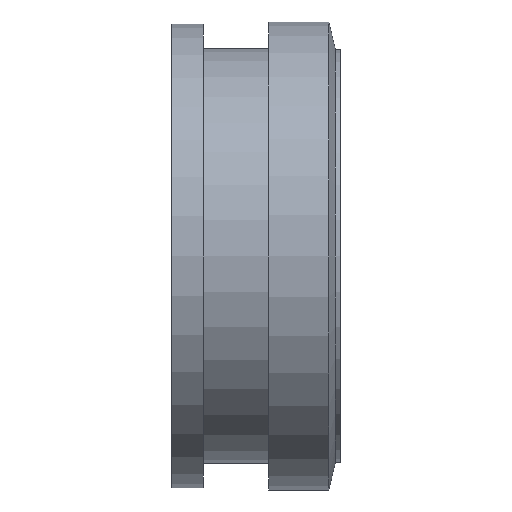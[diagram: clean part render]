
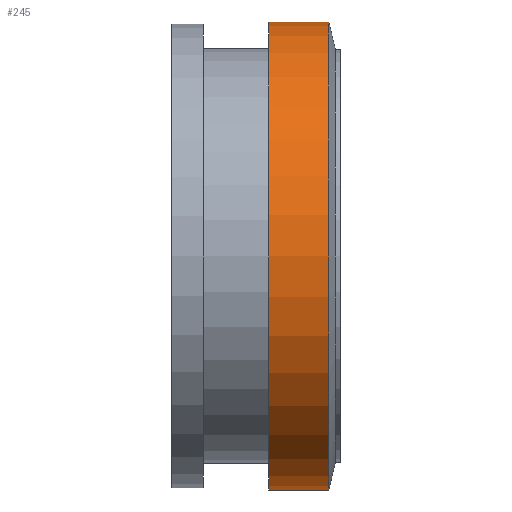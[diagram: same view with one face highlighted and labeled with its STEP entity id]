
A CAD part, front view. The second image highlights one B-rep face of the part: STEP entity #245.
In plain terms, the highlighted cylindrical face has radius 55.5 mm (diameter 111 mm), a full revolution.
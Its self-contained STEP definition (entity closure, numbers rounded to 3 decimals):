
#15=CYLINDRICAL_SURFACE($,#271,55.5);
#26=FACE_BOUND($,#70,.T.);
#51=FACE_OUTER_BOUND($,#69,.T.);
#69=EDGE_LOOP($,(#174));
#70=EDGE_LOOP($,(#175));
#109=CIRCLE($,#269,55.5);
#111=CIRCLE($,#272,55.5);
#130=VERTEX_POINT($,#398);
#132=VERTEX_POINT($,#403);
#151=EDGE_CURVE($,#130,#130,#109,.T.);
#153=EDGE_CURVE($,#132,#132,#111,.T.);
#174=ORIENTED_EDGE($,*,*,#153,.F.);
#175=ORIENTED_EDGE($,*,*,#151,.T.);
#245=ADVANCED_FACE($,(#51,#26),#15,.T.);
#269=AXIS2_PLACEMENT_3D($,#399,#314,#315);
#271=AXIS2_PLACEMENT_3D($,#402,#318,#319);
#272=AXIS2_PLACEMENT_3D($,#404,#320,#321);
#314=DIRECTION('center_axis',(1.,0.,0.));
#315=DIRECTION('ref_axis',(0.,1.,0.));
#318=DIRECTION('center_axis',(1.,0.,0.));
#319=DIRECTION('ref_axis',(0.,1.,0.));
#320=DIRECTION('center_axis',(1.,0.,0.));
#321=DIRECTION('ref_axis',(0.,1.,0.));
#398=CARTESIAN_POINT('',(23.,55.5,0.));
#399=CARTESIAN_POINT('Origin',(23.,0.,0.));
#402=CARTESIAN_POINT('Origin',(30.15,0.,0.));
#403=CARTESIAN_POINT('',(37.299,55.5,0.));
#404=CARTESIAN_POINT('Origin',(37.299,0.,0.));
